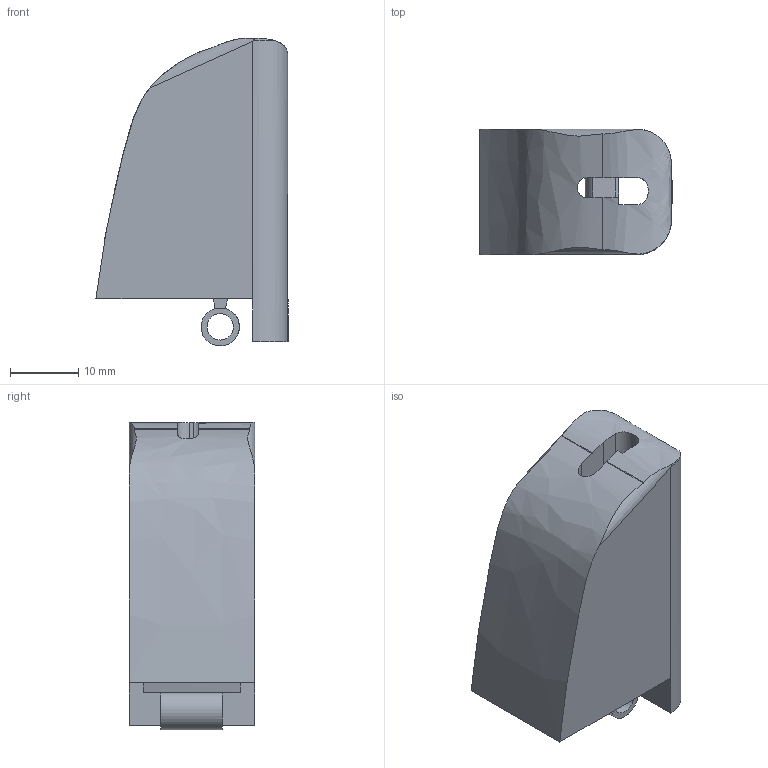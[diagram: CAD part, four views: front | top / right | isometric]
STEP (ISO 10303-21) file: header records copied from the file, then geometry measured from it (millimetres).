
FILE_DESCRIPTION(/* description */ ('STEP AP242 Edition 2','CAx-IF Rec.Pracs.---Representation and Presentation of Product Manufacturing Information (PMI)---4.0---2014-10-13','CAx-IF Rec.Pracs.---3D Tessellated Geometry---0.4---2014-09-14','2;1','CAx-IF Rec.Pracs.---User Defined Attributes---1.5---2016-08-15'),/* implementation_level */ '2;1');
FILE_NAME(/* name */ 'Main - Thumb Tih',/* time_stamp */ '2026-06-25T16:15:31Z',/* author */ (''),/* organization */ (''),/* preprocessor_version */ 'ST-DEVELOPER v20',/* originating_system */ 'ONSHAPE BY PTC INC, 1.216',/* authorisation */ ' ');
FILE_SCHEMA (('AP242_MANAGED_MODEL_BASED_3D_ENGINEERING_MIM_LF { 1 0 10303 442 3 1 4 }'));
Length unit declared in the file: metre
Products named in the file (1): Thumb Tih
Bounding box: 28.18 x 18.37 x 45.12 mm (x, y, z)
Volume: 15116.5 mm3; surface area: 5373.9 mm2
Topology: 1 solids, 1 shells, 61 faces, 174 edges, 112 vertices
Faces by surface type: plane 41, cylinder 14, torus 2, bspline 2, cone 2
Full cylindrical faces by diameter (mm): 3.865 x1
Entity records: 2120 total; most frequent: CARTESIAN_POINT 533, ORIENTED_EDGE 346, DIRECTION 297, EDGE_CURVE 173, LINE 119, VECTOR 119, VERTEX_POINT 112, AXIS2_PLACEMENT_3D 89
